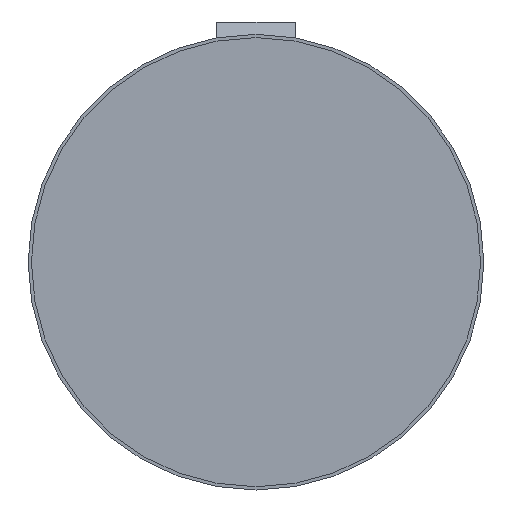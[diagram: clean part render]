
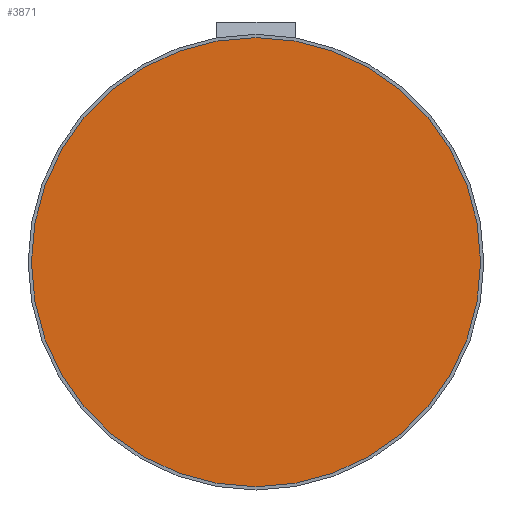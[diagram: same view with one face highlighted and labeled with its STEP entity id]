
A CAD part, front view. The second image highlights one B-rep face of the part: STEP entity #3871.
In plain terms, the highlighted planar face has unit normal (0, -1, 0) as drawn and (0, 0, -1) by its records, which use the part's own axes.
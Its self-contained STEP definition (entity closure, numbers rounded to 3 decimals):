
#11 = CIRCLE ( 'NONE', #66, 34.5 ) ;
#66 = AXIS2_PLACEMENT_3D ( 'NONE', #3214, #1994, #1948 ) ;
#140 = EDGE_LOOP ( 'NONE', ( #355, #2522 ) ) ;
#323 = AXIS2_PLACEMENT_3D ( 'NONE', #1243, #2976, #3383 ) ;
#355 = ORIENTED_EDGE ( 'NONE', *, *, #1711, .F. ) ;
#666 = PLANE ( 'NONE',  #1258 ) ;
#964 = FACE_OUTER_BOUND ( 'NONE', #140, .T. ) ;
#1208 = CIRCLE ( 'NONE', #323, 34.5 ) ;
#1243 = CARTESIAN_POINT ( 'NONE',  ( 0., 0., -1. ) ) ;
#1258 = AXIS2_PLACEMENT_3D ( 'NONE', #3031, #3108, #2764 ) ;
#1411 = VERTEX_POINT ( 'NONE', #3562 ) ;
#1711 = EDGE_CURVE ( 'NONE', #2570, #1411, #1208, .T. ) ;
#1828 = EDGE_CURVE ( 'NONE', #1411, #2570, #11, .T. ) ;
#1948 = DIRECTION ( 'NONE',  ( 1., 0., 0. ) ) ;
#1989 = CARTESIAN_POINT ( 'NONE',  ( 34.5, 0., -1. ) ) ;
#1994 = DIRECTION ( 'NONE',  ( 0., 0., 1. ) ) ;
#2522 = ORIENTED_EDGE ( 'NONE', *, *, #1828, .F. ) ;
#2570 = VERTEX_POINT ( 'NONE', #1989 ) ;
#2764 = DIRECTION ( 'NONE',  ( 1., 0., 0. ) ) ;
#2976 = DIRECTION ( 'NONE',  ( 0., 0., 1. ) ) ;
#3031 = CARTESIAN_POINT ( 'NONE',  ( 0., 0., -1. ) ) ;
#3108 = DIRECTION ( 'NONE',  ( 0., 0., 1. ) ) ;
#3214 = CARTESIAN_POINT ( 'NONE',  ( 0., 0., -1. ) ) ;
#3383 = DIRECTION ( 'NONE',  ( 1., 0., 0. ) ) ;
#3562 = CARTESIAN_POINT ( 'NONE',  ( -34.5, 0., -1. ) ) ;
#3871 = ADVANCED_FACE ( 'NONE', ( #964 ), #666, .F. ) ;
